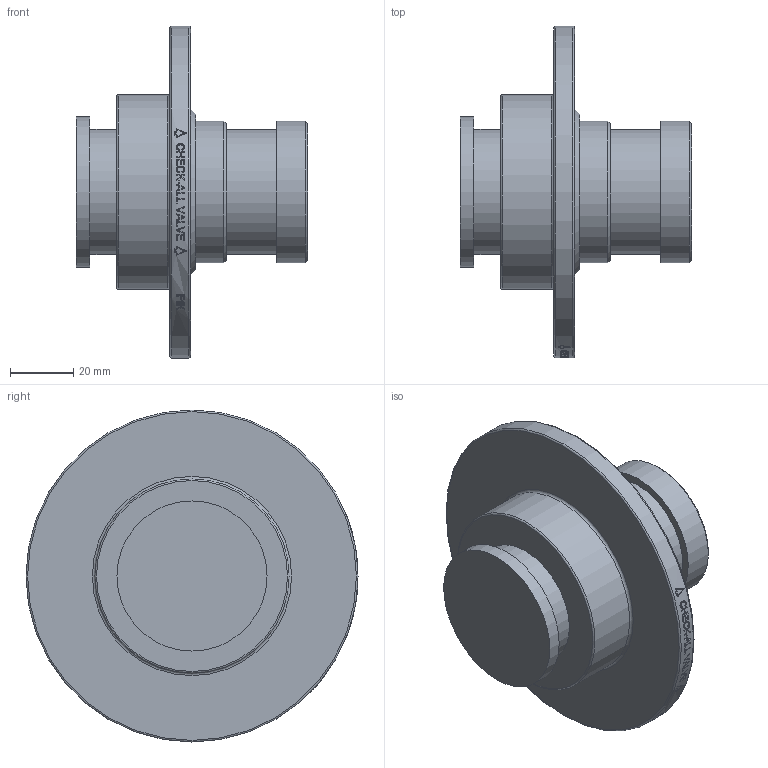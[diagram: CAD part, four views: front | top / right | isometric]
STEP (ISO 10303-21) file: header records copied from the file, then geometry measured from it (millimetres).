
FILE_DESCRIPTION( ( 'Unknown' ), '1' );
FILE_NAME( 'Y:/ENGR/3D Solid Edge Models/F1/F1 STEP/F1L.stp', 'Unknown', ( 'Unknown' ), ( 'Unknown' ), 'PSStep 14.0', 'Unknown', ' ' );
FILE_SCHEMA( ( 'AUTOMOTIVE_DESIGN { 1 0 10303 214 1 1 1 1 }' ) );
Length unit declared in the file: millimetre
Products named in the file (1): 1
Bounding box: 72.92 x 104.78 x 104.78 mm (x, y, z)
Volume: 176153.7 mm3; surface area: 30516.4 mm2
Topology: 1 solids, 1 shells, 217 faces, 549 edges, 364 vertices
Faces by surface type: plane 132, bspline 48, cylinder 30, torus 4, cone 3
Full cylindrical faces by diameter (mm): 39.497 x2, 44.577 x2, 47.371 x1, 61.265 x1, 104.775 x1
Entity records: 9276 total; most frequent: CARTESIAN_POINT 3484, ORIENTED_EDGE 1070, EDGE_CURVE 535, B_SPLINE_CURVE_WITH_KNOTS 513, DIRECTION 384, VERTEX_POINT 364, EDGE_LOOP 261, FACE_OUTER_BOUND 228
